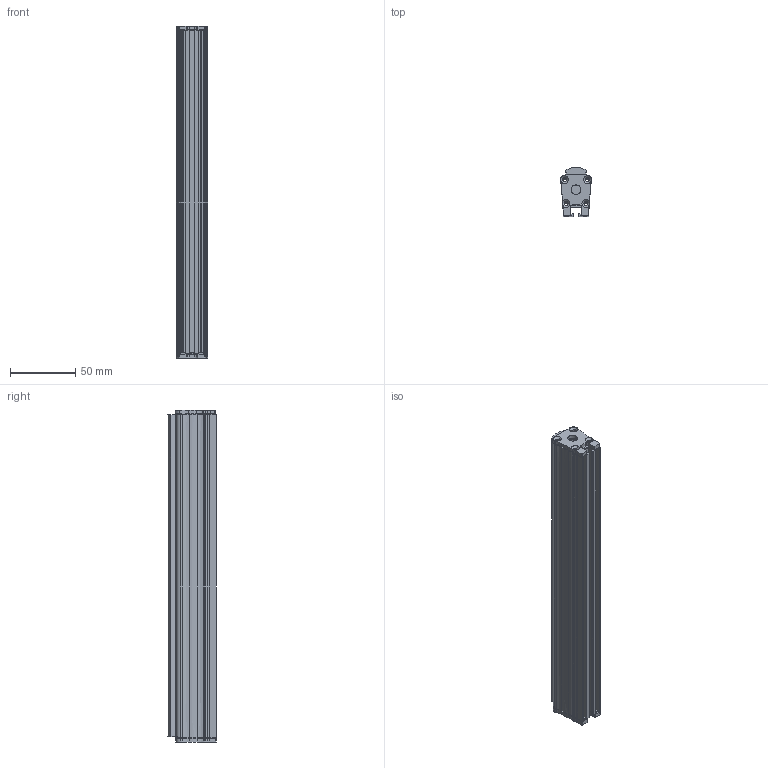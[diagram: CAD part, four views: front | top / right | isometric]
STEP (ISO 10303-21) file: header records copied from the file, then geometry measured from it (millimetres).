
FILE_DESCRIPTION(('STEP AP214'),'1');
FILE_NAME('lin+op 227.stp','2021-02-15T14:40:50',('Blanc'),('Phlox'),'Spatial InterOp 3D',' ',' ');
FILE_SCHEMA(('AUTOMOTIVE_DESIGN { 1 0 10303 214 1 1 1 1 }'));
Length unit declared in the file: inch
Products named in the file (1): Pièce_83634808
Bounding box: 24.54 x 37.28 x 255.06 mm (x, y, z)
Volume: 94150.8 mm3; surface area: 79172 mm2
Topology: 6 solids, 6 shells, 380 faces, 1090 edges, 718 vertices
Faces by surface type: cylinder 211, plane 103, bspline 36, cone 16, extrusion 14
Entity records: 25354 total; most frequent: CARTESIAN_POINT 7368, ORIENTED_EDGE 2180, DIRECTION 2086, STYLED_ITEM 1345, PRESENTATION_STYLE_ASSIGNMENT 1345, COLOUR_RGB 1345, EDGE_CURVE 1090, CURVE_STYLE 959
